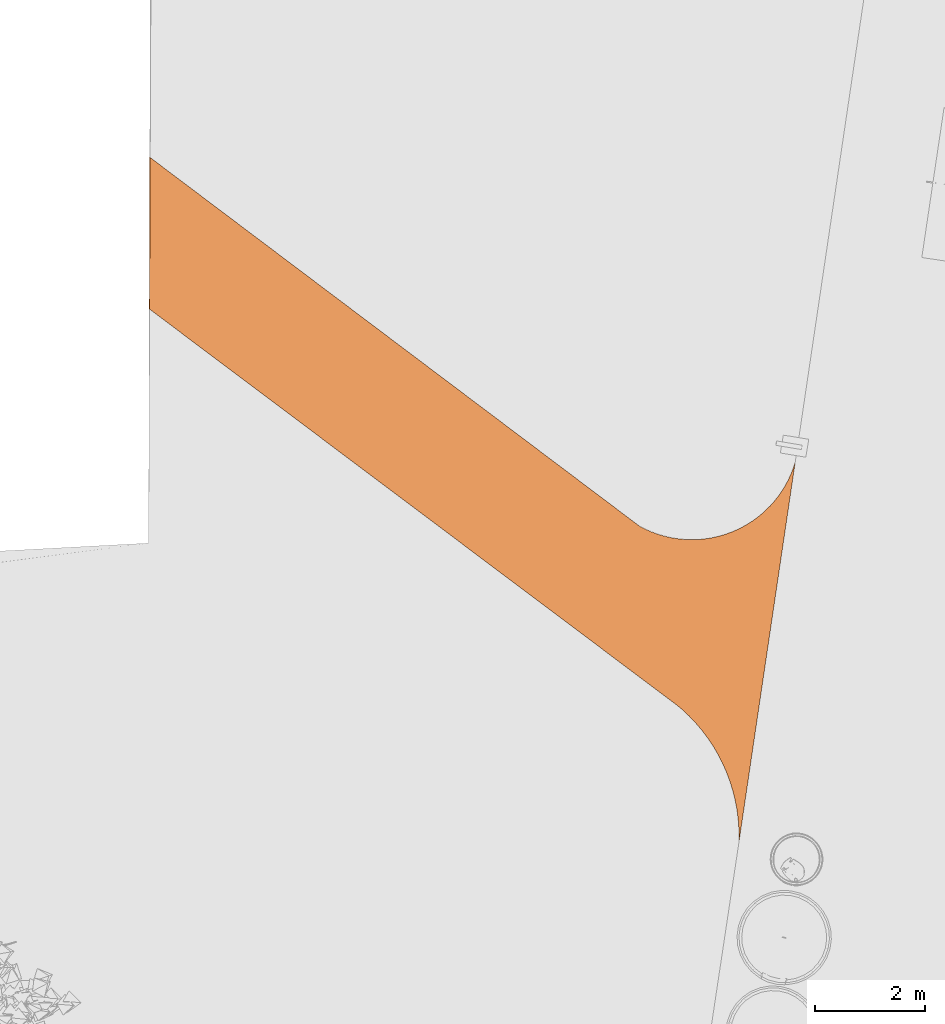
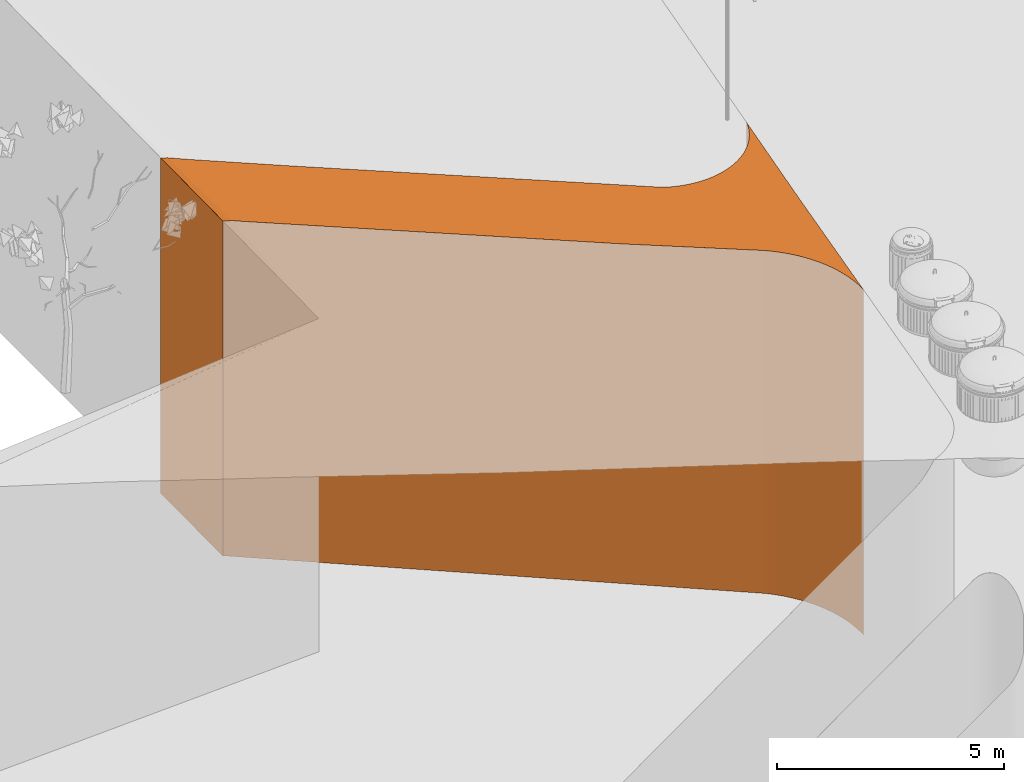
# One storey, part 212 of 246: 1 proxy.
"""IFC2X3 building model written with IfcOpenShell, lengths in millimetres."""

from ifc_helpers import new_model, entity, si_unit, converted_unit, derived_unit, money_unit, direction, frame, origin_with_axes, place, context, subcontext, project, spatial, faceted_brep, material, type_object, element, save


model = new_model("IFC2X3")

# Units and contexts
model_context = context("Model", 3, precision=0.01, world=origin_with_axes(), true_north=direction((0.0, 1.0)))
body_context = subcontext(model_context, "Body", "Model", "MODEL_VIEW")
ifc_project = project(units=[si_unit("LENGTHUNIT", "METRE", prefix="MILLI"), si_unit("AREAUNIT", "SQUARE_METRE"), si_unit("VOLUMEUNIT", "CUBIC_METRE"), converted_unit("PLANEANGLEUNIT", "DEGREE", entity("IfcPlaneAngleMeasure", 0.0174532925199), si_unit("PLANEANGLEUNIT", "RADIAN"), dimensions=[0, 0, 0, 0, 0, 0, 0]), si_unit("SOLIDANGLEUNIT", "STERADIAN"), money_unit("EUR"), converted_unit("TIMEUNIT", "Year", entity("IfcTimeMeasure", 31556926.0), si_unit("TIMEUNIT", "SECOND"), dimensions=[0, 0, 1, 0, 0, 0, 0]), si_unit("MASSUNIT", "GRAM", prefix="KILO"), si_unit("THERMODYNAMICTEMPERATUREUNIT", "DEGREE_CELSIUS"), si_unit("LUMINOUSINTENSITYUNIT", "LUMEN"), si_unit("ENERGYUNIT", "JOULE", prefix="MEGA"), derived_unit("THERMALCONDUCTANCEUNIT", [(si_unit("POWERUNIT", "WATT"), 1), (si_unit("LENGTHUNIT", "METRE"), -1), (si_unit("THERMODYNAMICTEMPERATUREUNIT", "KELVIN"), -1)]), derived_unit("SPECIFICHEATCAPACITYUNIT", [(si_unit("ENERGYUNIT", "JOULE"), 1), (si_unit("MASSUNIT", "GRAM", prefix="KILO"), -1), (si_unit("THERMODYNAMICTEMPERATUREUNIT", "KELVIN"), -1)]), derived_unit("MASSDENSITYUNIT", [(si_unit("MASSUNIT", "GRAM", prefix="KILO"), 1), (si_unit("VOLUMEUNIT", "CUBIC_METRE"), -1)])], contexts=[model_context])

# Site, building, storey
site_placement = place(None, origin_with_axes())
site = spatial("IfcSite", under=ifc_project, at=site_placement, Name="L.Koidula tn 11b", CompositionType="ELEMENT")
building_placement = place(site_placement, origin_with_axes())
building = spatial("IfcBuilding", under=site, at=building_placement, Name="Rakvere Riigigümnaasium", CompositionType="ELEMENT")
storey_placement = place(building_placement, origin_with_axes())
storey = spatial("IfcBuildingStorey", under=building, at=storey_placement, Name="1.korrus 0,00", CompositionType="ELEMENT", Elevation=0.0)

# Proxy
ifc_material = material(Name="Kruus")
building_element_proxy_type = type_object("IfcBuildingElementProxyType", Name="Kruus", PredefinedType="NOTDEFINED")
proxy_placement = place(storey_placement, frame((-4272.48892228, 12487.7592023, -10000.0), z_axis=(0.0, 0.0, 1.0), x_axis=(1.0, 0.0, 0.0)))
element("IfcBuildingElementProxy", 1, at=proxy_placement, inside=storey, type_object=building_element_proxy_type, material=ifc_material, Name="Olemasolevad kõnniteed", context=body_context, shape_type="Brep", body=[
    faceted_brep([(11721.722418, 6844.42796804, 9243.60882836), (11748.2922773, 6933.60581483, 9243.63252766), (11748.2922773, 6933.60581483, 0.0), (11721.722418, 6844.42796804, 0.0), (11306.3679126, 3949.82614349, 9250.0), (11672.0803569, 6713.50573565, 9243.4037052), (11613.224893, 6586.4585022, 9243.03355566), (11545.4559402, 6463.93367125, 9242.50026592), (11469.1188336, 6346.55560127, 9241.80655352), (11384.6025695, 6234.922424, 9240.95595345), (11292.3378236, 6129.60299651, 9239.95280018), (11192.7947556, 6031.13400247, 9238.80220555), (11086.4806144, 5940.0172173, 9237.51003271), (10973.9371524, 5856.71695125, 9236.08286629), (10855.7378654, 5781.65768338, 9234.5279788), (10732.4850697, 5715.22189852, 9232.8532936), (10604.8068333, 5657.7481382, 9231.06734448), (10473.3537754, 5609.52927552, 9229.17923225), (10338.7957505, 5570.81102277, 9227.19857828), (10201.8184355, 5541.79067927, 9225.13547554), (10063.1198354, 5522.61612605, 9223.00043713), (9923.40672647, 5513.38507224, 9220.8043427), (9783.3910547, 5514.14455716, 9218.55838306), (9643.78630784, 5524.89071067, 9216.27400311), (9505.3038797, 5545.56877282, 9213.9628435), (9368.64944497, 5576.07337294, 9211.6366814), (9234.51936334, 5616.2490666, 9209.30737038), (9103.59713095, 5665.89112766, 9206.98678008), (8976.5498975, 5724.74659156, 9204.68673569), (8915.28748202, 5758.63106795, 9203.55284671), (2331.1606001, 10718.5543755, 9075.74893717), (660.716185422, 10495.4274372, 9050.0), (11250.0059993, 3749.49926743, 9250.0), (10771.6461269, 339.497948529, 9300.0), (10721.3634546, 0.0, 9304.94713644), (10721.3634546, 0.0, 0.0), (11279.8458991, 3770.75512819, 9250.0), (10724.7603942, 88.0622694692, 0.0), (10721.4884527, 264.28742207, 0.0), (10708.1613631, 440.038378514, 0.0), (10684.8225954, 614.741875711, 0.0), (10651.5482759, 787.828067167, 0.0), (10608.4469385, 958.732381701, 0.0), (10555.6591709, 1126.89736496, 0.0), (10493.3571556, 1291.77449773, 0.0), (10421.7441091, 1452.82598506, 0.0), (10341.0536181, 1609.52651049, 0.0), (10251.5488782, 1761.36494946, 0.0), (10153.5218353, 1907.84603655, 0.0), (10047.2922333, 2048.4919809, 0.0), (9933.20657097, 2182.84402468, 0.0), (9811.63697211, 2310.46393944, 0.0), (9682.97997146, 2430.93545554, 0.0), (9605.94760053, 2495.18857572, 0.0), (0.0, 9708.18007214, 0.0), (8.12262831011, 12468.5343481, 0.0), (8915.28748202, 5758.63106795, 0.0), (8976.5498975, 5724.74659156, 0.0), (9103.59713095, 5665.89112766, 0.0), (9234.51936334, 5616.2490666, 0.0), (9368.64944497, 5576.07337294, 0.0), (9505.3038797, 5545.56877282, 0.0), (9643.78630784, 5524.89071067, 0.0), (9783.3910547, 5514.14455716, 0.0), (9923.40672647, 5513.38507224, 0.0), (10063.1198354, 5522.61612605, 0.0), (10201.8184355, 5541.79067927, 0.0), (10338.7957505, 5570.81102277, 0.0), (10473.3537754, 5609.52927552, 0.0), (10604.8068333, 5657.7481382, 0.0), (10732.4850697, 5715.22189852, 0.0), (10855.7378654, 5781.65768338, 0.0), (10973.9371524, 5856.71695125, 0.0), (11086.4806144, 5940.0172173, 0.0), (11192.7947556, 6031.13400247, 0.0), (11292.3378236, 6129.60299651, 0.0), (11384.6025695, 6234.922424, 0.0), (11469.1188336, 6346.55560127, 0.0), (11545.4559402, 6463.93367125, 0.0), (11613.224893, 6586.4585022, 0.0), (11672.0803569, 6713.50573565, 0.0), (8.12262865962, 12468.5343481, 9048.12850532), (17.5064415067, 12461.4653783, 9038.29199196), (127.333816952, 12378.7307395, 9062.1647646), (374.337388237, 12192.659178, 9058.29434071), (416.548724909, 12160.8607336, 9058.14869603), (582.166154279, 12036.0985954, 9057.53825505), (363.447856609, 9614.91369947, 9050.0), (10750.792138, 324.643023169, 9300.0), (10723.8053548, 139.500221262, 9302.70292808), (10724.7603942, 88.0622694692, 9303.5519667), (10721.4884527, 264.28742207, 9300.40152339), (10715.6423437, 341.382968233, 9298.95497544), (10708.1613631, 440.038378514, 9297.04906302), (10719.1621122, 294.966030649, 9299.7946408), (10684.8225954, 614.741875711, 9293.45905342), (10651.5482759, 787.828067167, 9289.6860564), (10608.4469385, 958.732381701, 9285.74237871), (10555.6591709, 1126.89736496, 9281.64088379), (10493.3571556, 1291.77449773, 9277.39494987), (10421.7441091, 1452.82598506, 9273.01842631), (10341.0536181, 1609.52651049, 9268.52558841), (10251.5488782, 1761.36494946, 9263.93109088), (10153.5218353, 1907.84603655, 9259.24992002), (10047.2922333, 2048.4919809, 9254.49734482), (9933.20657097, 2182.84402468, 9249.68886721), (9811.63697211, 2310.46393944, 9244.84017143), (9682.97997146, 2430.93545554, 9239.96707294), (9605.94760053, 2495.18857572, 9237.18881826), (5.69293435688, 9703.90531563, 9015.36410058), (2.99106517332e-07, 9708.18007215, 9021.33150081), (7100.90804187, 4376.19290619, 9150.53247159), (348.258448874, 9446.67695608, 9047.17200526), (162.074005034, 9586.4806346, 9049.35887219), (163.687964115, 9624.7109099, 9050.0), (460.716185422, 10495.4274372, 9050.0)], [[[0, 1, 2, 3]], [[4, 1, 0, 5, 6, 7, 8, 9, 10, 11, 12, 13, 14, 15, 16, 17, 18, 19, 20, 21, 22, 23, 24, 25, 26, 27, 28, 29, 30, 31, 32]], [[33, 34, 35, 2, 1, 4, 36]], [[2, 35, 37, 38, 39, 40, 41, 42, 43, 44, 45, 46, 47, 48, 49, 50, 51, 52, 53, 54, 55, 56, 57, 58, 59, 60, 61, 62, 63, 64, 65, 66, 67, 68, 69, 70, 71, 72, 73, 74, 75, 76, 77, 78, 79, 80, 3]], [[5, 0, 3, 80]], [[6, 5, 80, 79]], [[7, 6, 79, 78]], [[8, 7, 78, 77]], [[9, 8, 77, 76]], [[10, 9, 76, 75]], [[11, 10, 75, 74]], [[12, 11, 74, 73]], [[13, 12, 73, 72]], [[14, 13, 72, 71]], [[15, 14, 71, 70]], [[16, 15, 70, 69]], [[17, 16, 69, 68]], [[18, 17, 68, 67]], [[19, 18, 67, 66]], [[20, 19, 66, 65]], [[21, 20, 65, 64]], [[22, 21, 64, 63]], [[23, 22, 63, 62]], [[24, 23, 62, 61]], [[25, 24, 61, 60]], [[26, 25, 60, 59]], [[27, 26, 59, 58]], [[28, 27, 58, 57]], [[29, 28, 57, 56]], [[30, 29, 56, 55, 81, 82, 83, 84, 85, 86]], [[30, 86, 31]], [[32, 31, 87]], [[36, 4, 32]], [[34, 33, 88, 89, 90]], [[34, 90, 37, 35]], [[33, 36, 32, 88]], [[89, 91, 38, 37, 90]], [[92, 93, 39, 38, 91, 94]], [[93, 95, 40, 39]], [[95, 96, 41, 40]], [[96, 97, 42, 41]], [[97, 98, 43, 42]], [[98, 99, 44, 43]], [[99, 100, 45, 44]], [[100, 101, 46, 45]], [[101, 102, 47, 46]], [[102, 103, 48, 47]], [[103, 104, 49, 48]], [[104, 105, 50, 49]], [[105, 106, 51, 50]], [[106, 107, 52, 51]], [[107, 108, 53, 52]], [[109, 110, 54, 53, 108, 111, 112, 113]], [[110, 81, 55, 54]], [[82, 81, 110, 109]], [[109, 113, 114, 83, 82]], [[84, 83, 114, 115]], [[85, 84, 115]], [[86, 85, 115, 31]], [[31, 115, 114, 87]], [[112, 111, 32, 87]], [[91, 89, 88, 94]], [[93, 92, 88, 32, 111, 108, 107, 106, 105, 104, 103, 102, 101, 100, 99, 98, 97, 96, 95]], [[92, 94, 88]], [[113, 112, 87, 114]]]),
])

save(model, "model.ifc")
